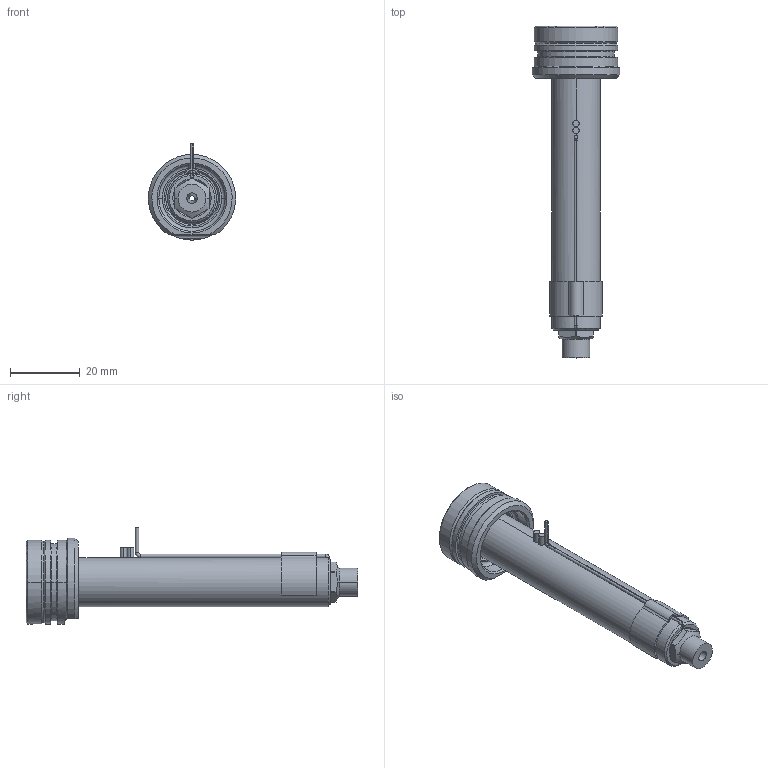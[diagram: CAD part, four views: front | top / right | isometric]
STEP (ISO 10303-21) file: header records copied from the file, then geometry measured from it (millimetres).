
FILE_DESCRIPTION((''),'2;1');
FILE_NAME('EO04_SG_SG_080_SW','2024-02-19T12:11:36',('sundharh'),(''),'CREO PARAMETRIC BY PTC INC, 2023154','CREO PARAMETRIC BY PTC INC, 2023154','');
FILE_SCHEMA(('CONFIG_CONTROL_DESIGN'));
Length unit declared in the file: millimetre
Products named in the file (1): EO04_SG_SG_080_SW
Bounding box: 24.99 x 95 x 27.5 mm (x, y, z)
Volume: 16523 mm3; surface area: 8335 mm2
Topology: 2 solids, 2 shells, 182 faces, 461 edges, 277 vertices
Faces by surface type: cylinder 67, plane 45, cone 34, torus 22, bspline 11, sphere 3
Entity records: 6385 total; most frequent: CARTESIAN_POINT 1990, DIRECTION 952, ORIENTED_EDGE 906, EDGE_CURVE 453, AXIS2_PLACEMENT_3D 396, VERTEX_POINT 277, CIRCLE 225, EDGE_LOOP 196
